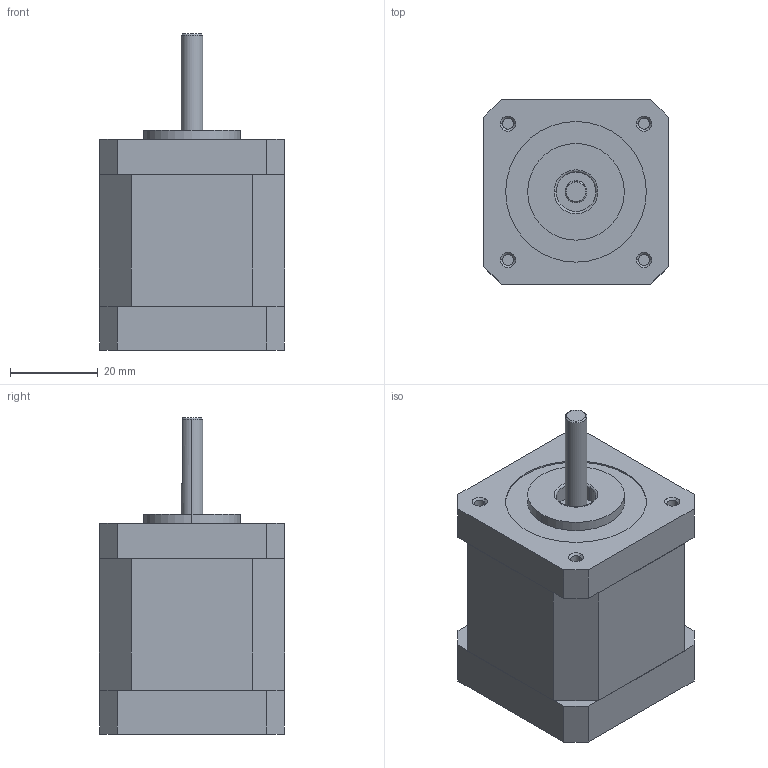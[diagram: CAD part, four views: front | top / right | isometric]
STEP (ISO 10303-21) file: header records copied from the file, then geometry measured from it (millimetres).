
FILE_DESCRIPTION (( 'STEP AP203' ), '1' );
FILE_NAME ('42CM06.STEP', '2017-10-12T06:21:57', ( 'Microsoft' ), ( 'China' ), 'SwSTEP 2.0', 'SolidWorks 2011', '' );
FILE_SCHEMA (( 'CONFIG_CONTROL_DESIGN' ));
Length unit declared in the file: millimetre
Products named in the file (1): 42CM06
Bounding box: 42.2 x 42.2 x 72 mm (x, y, z)
Volume: 81942.6 mm3; surface area: 12302 mm2
Topology: 1 solids, 1 shells, 207 faces, 516 edges, 329 vertices
Faces by surface type: plane 126, cylinder 56, cone 13, torus 12
Entity records: 6280 total; most frequent: CARTESIAN_POINT 1191, DIRECTION 1061, ORIENTED_EDGE 1032, EDGE_CURVE 516, AXIS2_PLACEMENT_3D 371, VERTEX_POINT 329, VECTOR 319, LINE 319
